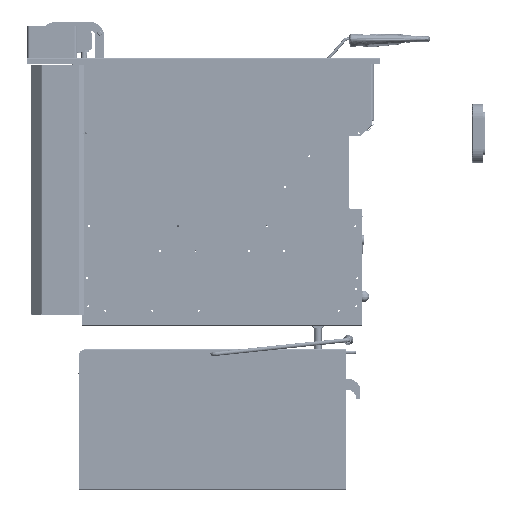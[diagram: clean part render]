
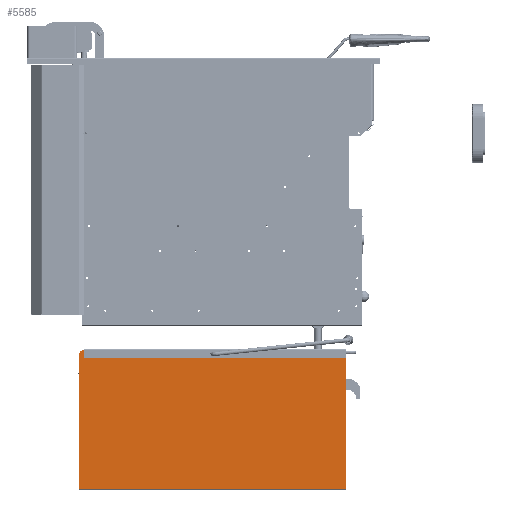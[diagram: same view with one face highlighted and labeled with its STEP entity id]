
A CAD part, left-side view. The second image highlights one B-rep face of the part: STEP entity #5585.
In plain terms, the highlighted planar face has unit normal (-1, 0, 0).
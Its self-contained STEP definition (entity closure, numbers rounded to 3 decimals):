
#745=FACE_BOUND('',#16280,.T.);
#5585=ADVANCED_FACE('',(#10678,#745),#84677,.T.);
#10678=FACE_OUTER_BOUND('',#16279,.T.);
#16279=EDGE_LOOP('',(#41291,#41292,#41293,#41294,#41295,#41296,#41297));
#16280=EDGE_LOOP('',(#41298,#41299));
#41291=ORIENTED_EDGE('',*,*,#55060,.F.);
#41292=ORIENTED_EDGE('',*,*,#55139,.F.);
#41293=ORIENTED_EDGE('',*,*,#55053,.F.);
#41294=ORIENTED_EDGE('',*,*,#55061,.F.);
#41295=ORIENTED_EDGE('',*,*,#55062,.F.);
#41296=ORIENTED_EDGE('',*,*,#55063,.F.);
#41297=ORIENTED_EDGE('',*,*,#55064,.F.);
#41298=ORIENTED_EDGE('',*,*,#55034,.T.);
#41299=ORIENTED_EDGE('',*,*,#55095,.F.);
#55034=EDGE_CURVE('',#81117,#81118,#68491,.T.);
#55053=EDGE_CURVE('',#81137,#81139,#63461,.T.);
#55060=EDGE_CURVE('',#81145,#81146,#63468,.T.);
#55061=EDGE_CURVE('',#81144,#81137,#63469,.T.);
#55062=EDGE_CURVE('',#81147,#81144,#63470,.T.);
#55063=EDGE_CURVE('',#81148,#81147,#63471,.T.);
#55064=EDGE_CURVE('',#81146,#81148,#63472,.T.);
#55095=EDGE_CURVE('',#81117,#81118,#68505,.T.);
#55139=EDGE_CURVE('',#81139,#81145,#68519,.T.);
#63461=B_SPLINE_CURVE_WITH_KNOTS('',1,(#257203,#257204),.UNSPECIFIED.,.F.,
 .F.,(2,2),(0.,227.),.UNSPECIFIED.);
#63468=B_SPLINE_CURVE_WITH_KNOTS('',1,(#257217,#257218),.UNSPECIFIED.,.F.,
 .F.,(2,2),(-0.5,0.),.UNSPECIFIED.);
#63469=B_SPLINE_CURVE_WITH_KNOTS('',1,(#257219,#257220),.UNSPECIFIED.,.F.,
 .F.,(2,2),(-455.,0.),.UNSPECIFIED.);
#63470=B_SPLINE_CURVE_WITH_KNOTS('',1,(#257221,#257222),.UNSPECIFIED.,.F.,
 .F.,(2,2),(-236.4,0.),.UNSPECIFIED.);
#63471=B_SPLINE_CURVE_WITH_KNOTS('',1,(#257223,#257224),.UNSPECIFIED.,.F.,
 .F.,(2,2),(-446.5,0.),.UNSPECIFIED.);
#63472=B_SPLINE_CURVE_WITH_KNOTS('',1,(#257225,#257226),.UNSPECIFIED.,.F.,
 .F.,(2,2),(-1.4,0.),.UNSPECIFIED.);
#68491=TRIMMED_CURVE($,#72916,(#257162),(#257163),.T.,.CARTESIAN.);
#68505=TRIMMED_CURVE($,#72930,(#257298),(#257299),.T.,.CARTESIAN.);
#68519=TRIMMED_CURVE($,#72944,(#257400),(#257401),.T.,.CARTESIAN.);
#72916=CIRCLE('',#94305,3.75);
#72930=CIRCLE('',#94319,3.75);
#72944=CIRCLE('',#94333,8.);
#81117=VERTEX_POINT('',#257081);
#81118=VERTEX_POINT('',#257082);
#81137=VERTEX_POINT('',#257101);
#81139=VERTEX_POINT('',#257103);
#81144=VERTEX_POINT('',#257108);
#81145=VERTEX_POINT('',#257109);
#81146=VERTEX_POINT('',#257110);
#81147=VERTEX_POINT('',#257111);
#81148=VERTEX_POINT('',#257112);
#84677=PLANE('',#94261);
#94261=AXIS2_PLACEMENT_3D('',#257033,#106471,$);
#94305=AXIS2_PLACEMENT_3D($,#257161,#106519,#106520);
#94319=AXIS2_PLACEMENT_3D($,#257297,#106547,#106548);
#94333=AXIS2_PLACEMENT_3D($,#257399,#106575,#106576);
#106471=DIRECTION('',(-1.,0.,0.));
#106519=DIRECTION('',(1.,0.,0.));
#106520=DIRECTION('',(0.,-1.,0.));
#106547=DIRECTION('',(-1.,0.,0.));
#106548=DIRECTION('',(0.,-1.,0.));
#106575=DIRECTION('',(1.,0.,0.));
#106576=DIRECTION('',(0.,1.,0.));
#257033=CARTESIAN_POINT('',(-71.,-300.965,377.04));
#257081=CARTESIAN_POINT('',(-71.,-31.715,345.4));
#257082=CARTESIAN_POINT('',(-71.,-24.215,345.4));
#257101=CARTESIAN_POINT('',(-71.,199.535,117.));
#257103=CARTESIAN_POINT('',(-71.,199.535,344.));
#257108=CARTESIAN_POINT('',(-71.,-255.465,117.));
#257109=CARTESIAN_POINT('',(-71.,191.535,352.));
#257110=CARTESIAN_POINT('',(-71.,191.035,352.));
#257111=CARTESIAN_POINT('',(-71.,-255.465,353.4));
#257112=CARTESIAN_POINT('',(-71.,191.035,353.4));
#257161=CARTESIAN_POINT('',(-71.,-27.965,345.4));
#257162=CARTESIAN_POINT('',(-71.,-31.715,345.4));
#257163=CARTESIAN_POINT('',(-71.,-24.215,345.4));
#257203=CARTESIAN_POINT('',(-71.,199.535,117.));
#257204=CARTESIAN_POINT('',(-71.,199.535,344.));
#257217=CARTESIAN_POINT('',(-71.,191.535,352.));
#257218=CARTESIAN_POINT('',(-71.,191.035,352.));
#257219=CARTESIAN_POINT('',(-71.,-255.465,117.));
#257220=CARTESIAN_POINT('',(-71.,199.535,117.));
#257221=CARTESIAN_POINT('',(-71.,-255.465,353.4));
#257222=CARTESIAN_POINT('',(-71.,-255.465,117.));
#257223=CARTESIAN_POINT('',(-71.,191.035,353.4));
#257224=CARTESIAN_POINT('',(-71.,-255.465,353.4));
#257225=CARTESIAN_POINT('',(-71.,191.035,352.));
#257226=CARTESIAN_POINT('',(-71.,191.035,353.4));
#257297=CARTESIAN_POINT('',(-71.,-27.965,345.4));
#257298=CARTESIAN_POINT('',(-71.,-31.715,345.4));
#257299=CARTESIAN_POINT('',(-71.,-24.215,345.4));
#257399=CARTESIAN_POINT('',(-71.,191.535,344.));
#257400=CARTESIAN_POINT('',(-71.,199.535,344.));
#257401=CARTESIAN_POINT('',(-71.,191.535,352.));
